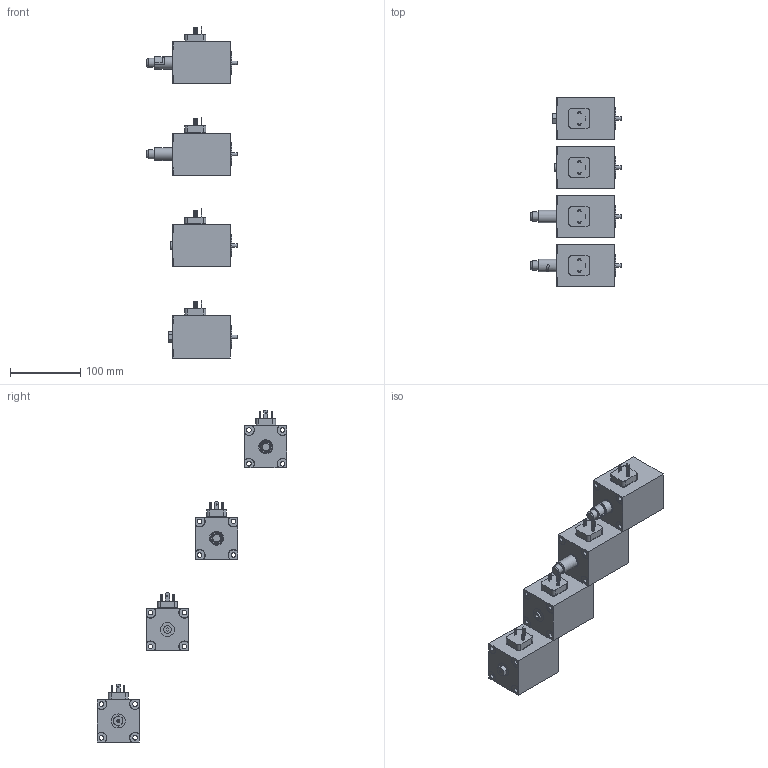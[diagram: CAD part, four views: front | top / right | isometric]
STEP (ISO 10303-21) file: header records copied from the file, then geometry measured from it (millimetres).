
FILE_DESCRIPTION(('Bauteilbeschreibung','HiCAD-Model','HiCAD-STEP-TRANSLATION','Bauteilbeschreibung'),'2;1');
FILE_NAME('K:/STEP_DXF/STP/SIS60V.STP','2006-05-12T17:10:44+00:00',('Konstrukteur'),('Konstrukteur Firma GmbH'),'HiCAD3 V1210 STEP 1.6.2005','HiCAD3 V1210','confidential');
FILE_SCHEMA(('AUTOMOTIVE_DESIGN { 1 2 10303 214 0 1 1 1 }'));
Length unit declared in the file: millimetre
Products named in the file (29): SIS60V; SIS60V_H20; AAAA16F7; DAB12417; DAB124170; DICHTUNG; A9350B1E; AFA74748; SIS60V_H21; A391A739; DAB124171; DAB124172; DICHTUNG0; A270342B; AFA747480; SIS60V_HB0; A7A9C171; DAB124173; DAB124174; DICHTUNG1; F134825D; AFA747481; SIS60V_HB8_5; E72A0B37; DAB124175; DAB124176; DICHTUNG2; B4DFF981; AFA747482
Assembly tree (28 placements, depth 5):
  SIS60V
    SIS60V_H20
      AAAA16F7
        DAB12417
        DAB124170
          DICHTUNG
        A9350B1E
        AFA74748
    SIS60V_H21
      A391A739
        DAB124171
        DAB124172
          DICHTUNG0
        A270342B
        AFA747480
    SIS60V_HB0
      A7A9C171
        DAB124173
        DAB124174
          DICHTUNG1
        F134825D
        AFA747481
    SIS60V_HB8_5
      E72A0B37
        DAB124175
        DAB124176
          DICHTUNG2
        B4DFF981
        AFA747482
Bounding box: 128.4 x 270 x 472.5 mm (x, y, z)
Volume: 1177460.2 mm3; surface area: 165587.2 mm2
Topology: 28 solids, 28 shells, 473 faces, 1133 edges, 765 vertices
Faces by surface type: plane 273, cylinder 151, cone 42, torus 7
Full cylindrical faces by diameter (mm): 1.5 x12, 2.5 x1, 3 x12, 4.2 x1, 4.9 x4, 6 x1, 6.4 x1, 6.5 x16, 6.8 x6, 8 x8, 11 x1, 13 x2, 15 x4, 15.5 x4, 18 x2, 20 x4, 32 x4
Entity records: 23193 total; most frequent: CARTESIAN_POINT 3208, DIRECTION 2333, ORIENTED_EDGE 1956, COLOUR_RGB 1467, PRESENTATION_STYLE_ASSIGNMENT 1467, OVER_RIDING_STYLED_ITEM 1451, CURVE_STYLE 978, DRAUGHTING_PRE_DEFINED_CURVE_FONT 978
